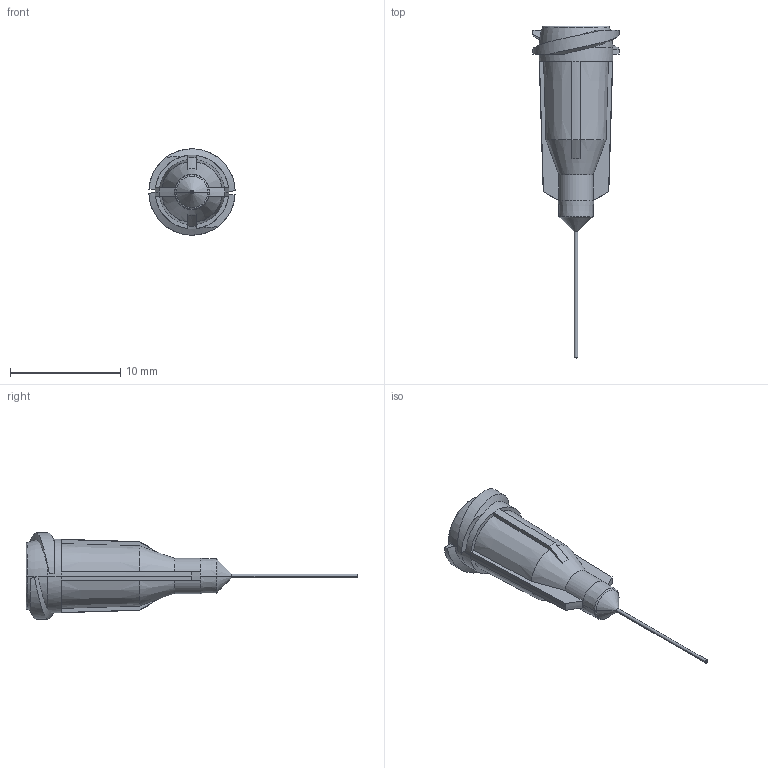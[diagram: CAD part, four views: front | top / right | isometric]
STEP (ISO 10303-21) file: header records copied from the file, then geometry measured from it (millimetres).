
FILE_DESCRIPTION (( 'STEP AP214' ), '1' );
FILE_NAME ('NORDSONEFD-7018422 TIP 30GA GP 006 X 1-2 LV.STEP', '2019-02-04T12:47:48', ( '' ), ( '' ), 'SwSTEP 2.0', 'SolidWorks 2019', '' );
FILE_SCHEMA (( 'AUTOMOTIVE_DESIGN' ));
Length unit declared in the file: inch
Products named in the file (1): NORDSONEFD-7018422 TIP 30GA GP 006 X 1-2 LV
Bounding box: 7.82 x 30.07 x 7.82 mm (x, y, z)
Volume: 266.1 mm3; surface area: 548.4 mm2
Topology: 1 solids, 1 shells, 97 faces, 226 edges, 134 vertices
Faces by surface type: plane 25, torus 22, cone 22, cylinder 16, bspline 12
Entity records: 3277 total; most frequent: CARTESIAN_POINT 992, DIRECTION 454, ORIENTED_EDGE 452, EDGE_CURVE 226, AXIS2_PLACEMENT_3D 198, VERTEX_POINT 134, CIRCLE 112, EDGE_LOOP 102
